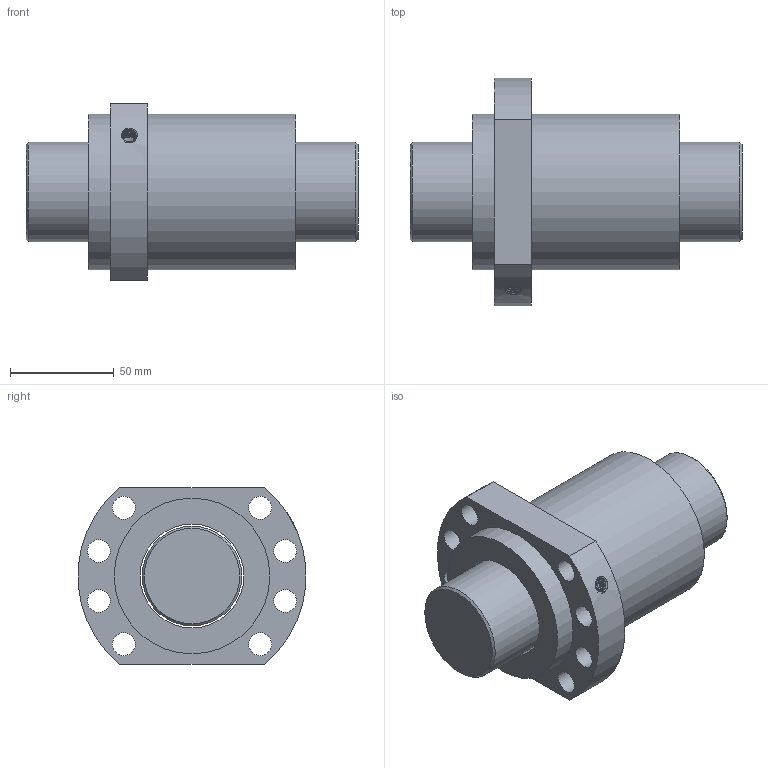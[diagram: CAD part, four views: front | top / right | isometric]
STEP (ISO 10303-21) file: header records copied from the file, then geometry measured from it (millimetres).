
FILE_DESCRIPTION (( 'STEP AP203' ), '1' );
FILE_NAME ('SFH5020-3.8.STEP', '2023-08-16T08:55:02', ( '' ), ( '' ), 'SwSTEP 2.0', 'SolidWorks 2022', '' );
FILE_SCHEMA (( 'CONFIG_CONTROL_DESIGN' ));
Length unit declared in the file: millimetre
Products named in the file (1): SFH5020-3.8
Bounding box: 160 x 109.65 x 85 mm (x, y, z)
Volume: 590667.3 mm3; surface area: 85236.6 mm2
Topology: 2 solids, 2 shells, 32 faces, 75 edges, 49 vertices
Faces by surface type: cylinder 18, plane 9, cone 3, bspline 2
Full cylindrical faces by diameter (mm): 3 x1, 6.917 x1, 11 x8, 48 x1, 50 x1, 75 x2
Entity records: 2373 total; most frequent: CARTESIAN_POINT 1615, DIRECTION 140, ORIENTED_EDGE 108, EDGE_LOOP 71, AXIS2_PLACEMENT_3D 66, EDGE_CURVE 54, FACE_OUTER_BOUND 46, VERTEX_POINT 45
